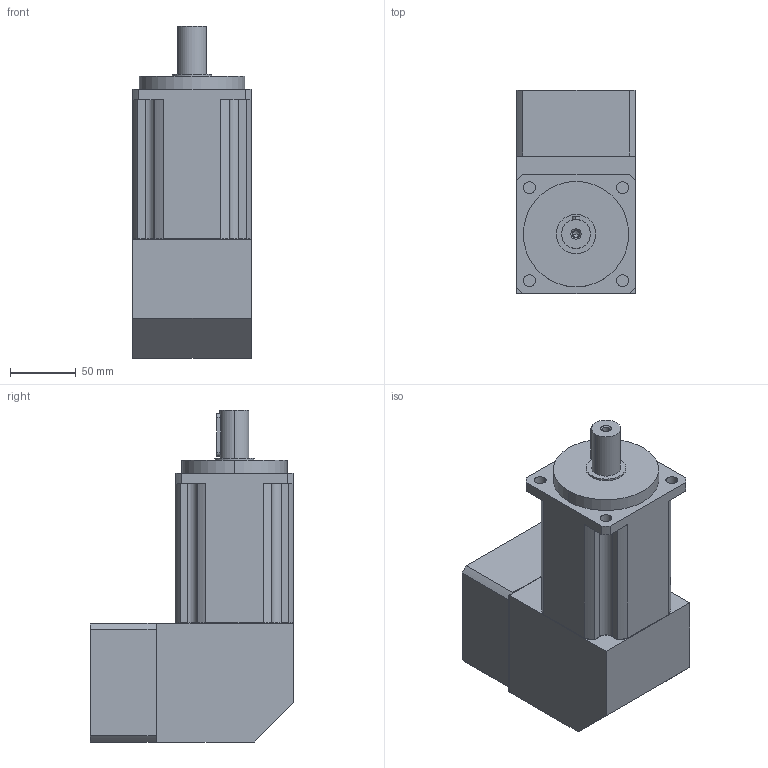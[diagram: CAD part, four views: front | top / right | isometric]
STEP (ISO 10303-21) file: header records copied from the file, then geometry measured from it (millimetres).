
FILE_DESCRIPTION (( 'STEP AP203' ), '1' );
FILE_NAME ('IBR090L3.STEP', '2015-12-01T05:36:26', ( 'User' ), ( 'china' ), 'SwSTEP 2.0', 'SolidWorks 2015', '' );
FILE_SCHEMA (( 'CONFIG_CONTROL_DESIGN' ));
Length unit declared in the file: millimetre
Products named in the file (1): IBR090L3
Bounding box: 90 x 154.5 x 252.1 mm (x, y, z)
Volume: 2042281.9 mm3; surface area: 118973 mm2
Topology: 1 solids, 1 shells, 150 faces, 360 edges, 219 vertices
Faces by surface type: cylinder 77, plane 49, cone 12, torus 12
Entity records: 4477 total; most frequent: CARTESIAN_POINT 875, DIRECTION 778, ORIENTED_EDGE 700, EDGE_CURVE 350, AXIS2_PLACEMENT_3D 300, VERTEX_POINT 219, LINE 178, VECTOR 178
